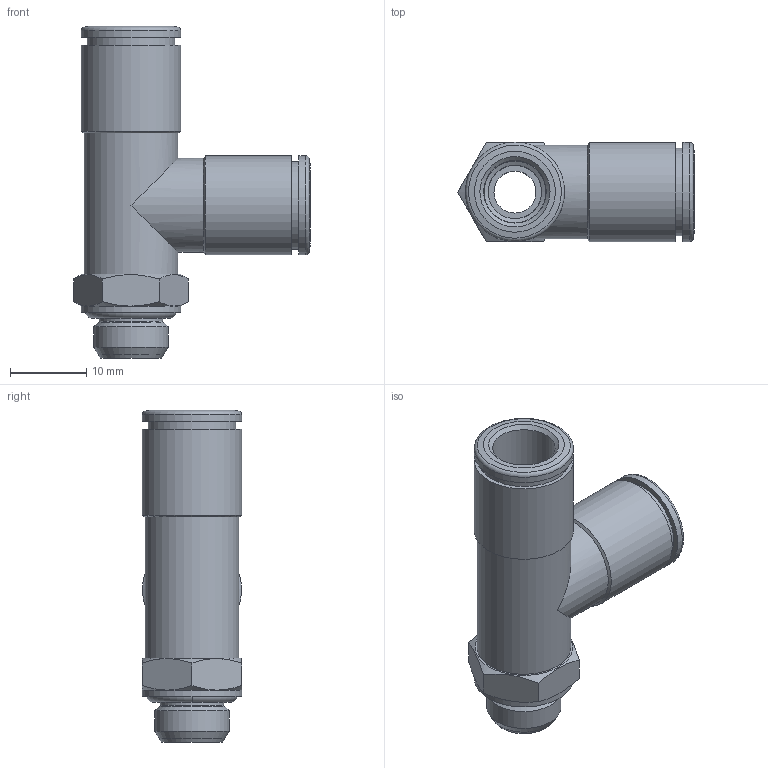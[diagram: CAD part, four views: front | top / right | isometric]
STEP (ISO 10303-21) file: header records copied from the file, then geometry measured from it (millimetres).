
FILE_DESCRIPTION(('Bauteilbeschreibung','HiCAD-Model','HiCAD-STEP-TRANSLATION','Bauteilbeschreibung'),'2;1');
FILE_NAME('B:/ABGLEICH/ZEICHNUNGEN/STEP FÜR INTERNET/STEP/IPSO 021/202105_IPSO_021_8_1-8.STP','2011-09-28T10:47:43+00:00',('Konstrukteur'),('Konstrukteur Firma GmbH'),' HiCAD neXt 2008, Step 3.1.1401.2J ','HiCAD neXt 2008','confidential');
FILE_SCHEMA(('AUTOMOTIVE_DESIGN { 1 2 10303 214 0 1 1 1 }'));
Length unit declared in the file: millimetre
Products named in the file (8): A02105_IPSO_021_8_1_8; OR 7_2X1_9; A14602_N2_GEW___1_8_1_8; A146020N20GEW0001080108; G 1_8; DR8_1_NEU; DR8010NEU; R202105_N2
Assembly tree (7 placements, depth 3):
  A02105_IPSO_021_8_1_8
    OR 7_2X1_9
    A14602_N2_GEW___1_8_1_8
    A146020N20GEW0001080108
      G 1_8
    DR8_1_NEU
    DR8010NEU
    R202105_N2
Bounding box: 31.01 x 13 x 43.5 mm (x, y, z)
Volume: 4251.8 mm3; surface area: 6292.9 mm2
Topology: 6 solids, 6 shells, 97 faces, 203 edges, 122 vertices
Faces by surface type: cone 34, cylinder 31, plane 24, torus 8
Full cylindrical faces by diameter (mm): 5.5 x1, 7 x2, 8.1 x2, 8.2 x2, 8.3 x1, 8.566 x2, 9 x2, 9.728 x1, 10.1 x4, 11 x2, 11.5 x2, 11.6 x2, 12.3 x2, 13 x5
Entity records: 3098 total; most frequent: CARTESIAN_POINT 570, DIRECTION 422, ORIENTED_EDGE 248, AXIS2_PLACEMENT_3D 207, EDGE_LOOP 176, EDGE_CURVE 124, COLOUR_RGB 121, PRESENTATION_STYLE_ASSIGNMENT 121
